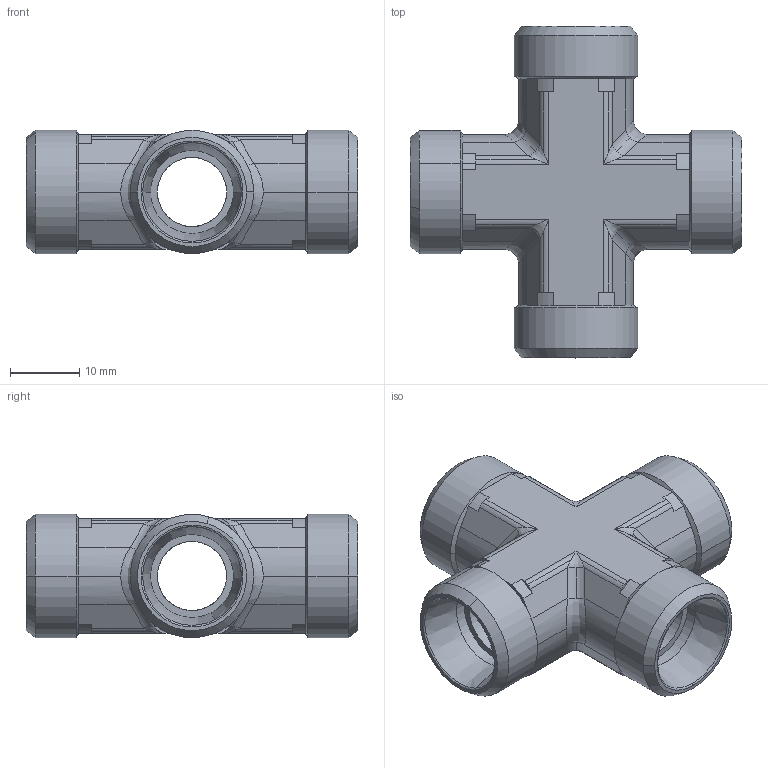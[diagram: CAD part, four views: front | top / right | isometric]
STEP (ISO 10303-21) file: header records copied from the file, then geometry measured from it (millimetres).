
FILE_DESCRIPTION((''),'2;1');
FILE_NAME('104007.stp','2007-10-31T13:16:24',(''),(''),'AutoCAD STEP 2000i','AutoCAD 2000i',', , ');
FILE_SCHEMA(('CONFIG_CONTROL_DESIGN'));
Length unit declared in the file: millimetre
Products named in the file (2): 104007.0; 3093#0
Assembly tree (1 placements, depth 2):
  104007.0
    3093#0
Bounding box: 48 x 48 x 17.85 mm (x, y, z)
Volume: 10912.3 mm3; surface area: 7440.3 mm2
Topology: 1 solids, 1 shells, 208 faces, 530 edges, 318 vertices
Faces by surface type: cylinder 106, plane 58, cone 24, bspline 20
Entity records: 7827 total; most frequent: CARTESIAN_POINT 2578, DIRECTION 1182, ORIENTED_EDGE 1044, EDGE_CURVE 522, AXIS2_PLACEMENT_3D 470, VERTEX_POINT 318, VECTOR 242, LINE 242
